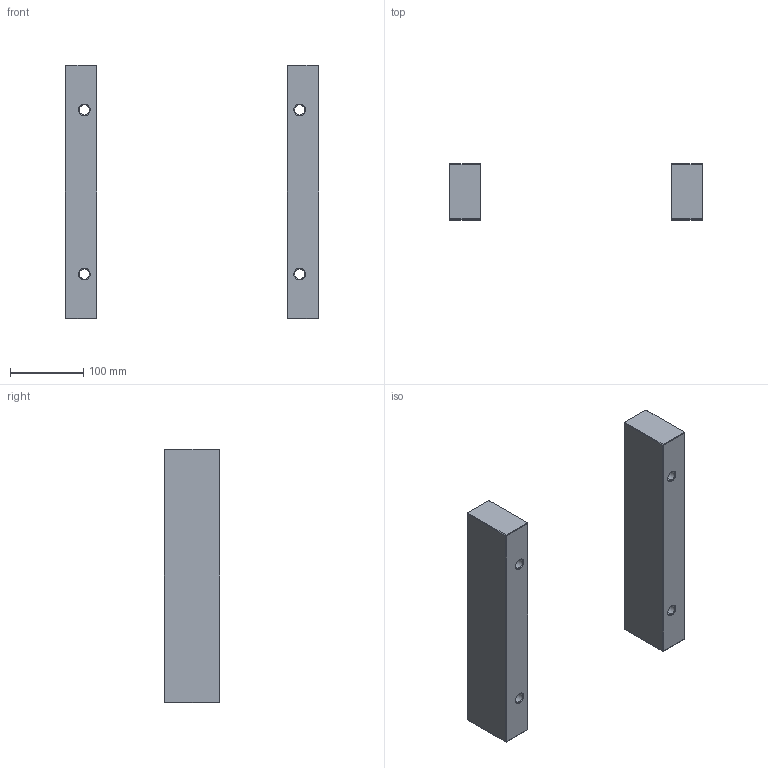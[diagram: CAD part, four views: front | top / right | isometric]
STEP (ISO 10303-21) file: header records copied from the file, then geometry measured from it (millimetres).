
FILE_DESCRIPTION (( 'STEP AP214' ), '1' );
FILE_NAME ('ESP-346X346x76.STEP', '2020-04-14T08:21:48', ( 'August' ), ( '' ), 'SwSTEP 2.0', 'SolidWorks 2018', '' );
FILE_SCHEMA (( 'AUTOMOTIVE_DESIGN' ));
Length unit declared in the file: millimetre
Products named in the file (1): ESP-346X346x76
Bounding box: 346 x 76 x 346 mm (x, y, z)
Volume: 2212625.2 mm3; surface area: 187526.3 mm2
Topology: 2 solids, 2 shells, 76 faces, 152 edges, 80 vertices
Faces by surface type: plane 52, cone 16, cylinder 8
Entity records: 1935 total; most frequent: DIRECTION 338, CARTESIAN_POINT 309, ORIENTED_EDGE 304, EDGE_CURVE 152, LINE 120, VECTOR 120, AXIS2_PLACEMENT_3D 109, EDGE_LOOP 84
